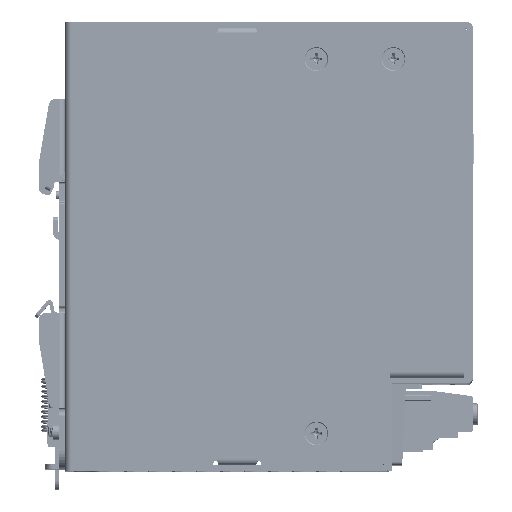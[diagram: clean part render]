
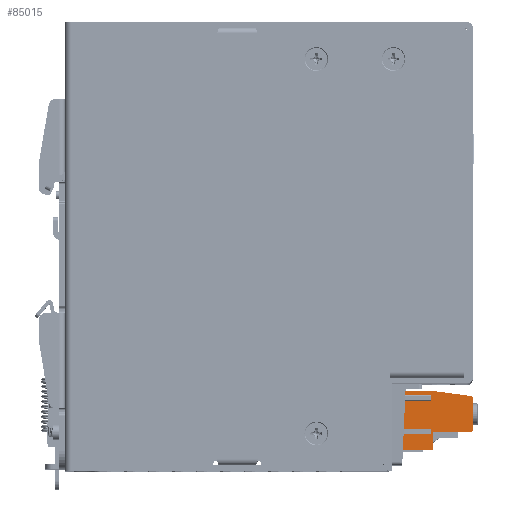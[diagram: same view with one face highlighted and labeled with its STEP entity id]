
A CAD part, top view. The second image highlights one B-rep face of the part: STEP entity #85015.
In plain terms, the highlighted planar face has unit normal (0, 0, 1) as drawn and (0, 0, -1) by its records, which use the part's own axes.
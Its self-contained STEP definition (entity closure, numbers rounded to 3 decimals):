
#81359=DIRECTION('',(0.,-1.,0.));
#81360=VECTOR('',#81359,1.15);
#81361=CARTESIAN_POINT('',(-8.,13.65,-3.175));
#81362=LINE('',#81361,#81360);
#81380=DIRECTION('',(0.,-1.,0.));
#81381=VECTOR('',#81380,12.15);
#81382=CARTESIAN_POINT('',(-8.,10.5,-3.175));
#81383=LINE('',#81382,#81381);
#81415=DIRECTION('',(-1.,0.,0.));
#81416=VECTOR('',#81415,0.65);
#81417=CARTESIAN_POINT('',(-7.35,10.5,-3.175));
#81418=LINE('',#81417,#81416);
#81429=DIRECTION('',(0.,-1.,0.));
#81430=VECTOR('',#81429,14.5);
#81431=CARTESIAN_POINT('',(-6.575,13.65,-3.175));
#81432=LINE('',#81431,#81430);
#81436=DIRECTION('',(0.,1.,0.));
#81437=VECTOR('',#81436,2.);
#81438=CARTESIAN_POINT('',(-7.35,10.5,-3.175));
#81439=LINE('',#81438,#81437);
#81443=DIRECTION('',(-0.132,0.991,0.));
#81444=VECTOR('',#81443,9.967);
#81445=CARTESIAN_POINT('',(-6.683,-11.529,-3.175));
#81446=LINE('',#81445,#81444);
#81450=CARTESIAN_POINT('',(-6.088,-11.45,-3.175));
#81451=DIRECTION('',(0.,0.,-1.));
#81452=DIRECTION('',(0.,-1.,0.));
#81453=AXIS2_PLACEMENT_3D('',#81450,#81451,#81452);
#81458=DIRECTION('',(-1.,0.,0.));
#81459=VECTOR('',#81458,8.488);
#81460=CARTESIAN_POINT('',(2.4,-12.05,-3.175));
#81461=LINE('',#81460,#81459);
#81465=CARTESIAN_POINT('',(2.4,-11.45,-3.175));
#81466=DIRECTION('',(0.,0.,-1.));
#81467=DIRECTION('',(1.,0.,0.));
#81468=AXIS2_PLACEMENT_3D('',#81465,#81466,#81467);
#81473=CARTESIAN_POINT('',(7.35,-0.9,-3.175));
#81474=DIRECTION('',(0.,0.,-1.));
#81475=DIRECTION('',(1.,0.,0.));
#81476=AXIS2_PLACEMENT_3D('',#81473,#81474,#81475);
#81481=DIRECTION('',(1.,0.,0.));
#81482=VECTOR('',#81481,0.45);
#81483=CARTESIAN_POINT('',(7.4,9.55,-3.175));
#81484=LINE('',#81483,#81482);
#81488=DIRECTION('',(0.,-1.,0.));
#81489=VECTOR('',#81488,4.1);
#81490=CARTESIAN_POINT('',(7.4,13.65,-3.175));
#81491=LINE('',#81490,#81489);
#81495=DIRECTION('',(0.,-1.,0.));
#81496=VECTOR('',#81495,14.5);
#81497=CARTESIAN_POINT('',(2.525,13.65,-3.175));
#81498=LINE('',#81497,#81496);
#81524=DIRECTION('',(-1.,0.,0.));
#81525=VECTOR('',#81524,0.75);
#81526=CARTESIAN_POINT('',(-5.825,-0.85,-3.175));
#81527=LINE('',#81526,#81525);
#81560=DIRECTION('',(-1.,0.,0.));
#81561=VECTOR('',#81560,8.35);
#81562=CARTESIAN_POINT('',(2.525,13.65,-3.175));
#81563=LINE('',#81562,#81561);
#81597=DIRECTION('',(-1.,0.,0.));
#81598=VECTOR('',#81597,4.125);
#81599=CARTESIAN_POINT('',(7.4,13.65,-3.175));
#81600=LINE('',#81599,#81598);
#81625=DIRECTION('',(-1.,0.,0.));
#81626=VECTOR('',#81625,1.425);
#81627=CARTESIAN_POINT('',(-6.575,13.65,-3.175));
#81628=LINE('',#81627,#81626);
#81655=DIRECTION('',(0.,-1.,0.));
#81656=VECTOR('',#81655,14.5);
#81657=CARTESIAN_POINT('',(-5.825,13.65,-3.175));
#81658=LINE('',#81657,#81656);
#81683=DIRECTION('',(-1.,0.,0.));
#81684=VECTOR('',#81683,0.75);
#81685=CARTESIAN_POINT('',(3.275,-0.85,-3.175));
#81686=LINE('',#81685,#81684);
#81720=DIRECTION('',(0.,-1.,0.));
#81721=VECTOR('',#81720,14.5);
#81722=CARTESIAN_POINT('',(3.275,13.65,-3.175));
#81723=LINE('',#81722,#81721);
#81881=DIRECTION('',(0.,1.,0.));
#81882=VECTOR('',#81881,10.45);
#81883=CARTESIAN_POINT('',(7.85,-0.9,-3.175));
#81884=LINE('',#81883,#81882);
#81961=DIRECTION('',(1.,0.,0.));
#81962=VECTOR('',#81961,4.35);
#81963=CARTESIAN_POINT('',(3.,-1.4,-3.175));
#81964=LINE('',#81963,#81962);
#81989=DIRECTION('',(0.,1.,0.));
#81990=VECTOR('',#81989,10.05);
#81991=CARTESIAN_POINT('',(3.,-11.45,-3.175));
#81992=LINE('',#81991,#81990);
#83704=DIRECTION('',(1.,0.,0.));
#83705=VECTOR('',#83704,0.65);
#83706=CARTESIAN_POINT('',(-8.,12.5,-3.175));
#83707=LINE('',#83706,#83705);
#83833=CARTESIAN_POINT('',(-5.825,13.65,-3.175));
#83835=VERTEX_POINT('',#83833);
#83843=CARTESIAN_POINT('',(-6.575,13.65,-3.175));
#83844=VERTEX_POINT('',#83843);
#83845=CARTESIAN_POINT('',(-8.,13.65,-3.175));
#83846=VERTEX_POINT('',#83845);
#83857=CARTESIAN_POINT('',(7.4,13.65,-3.175));
#83858=VERTEX_POINT('',#83857);
#83859=CARTESIAN_POINT('',(3.275,13.65,-3.175));
#83860=VERTEX_POINT('',#83859);
#83869=CARTESIAN_POINT('',(2.525,13.65,-3.175));
#83870=VERTEX_POINT('',#83869);
#83872=CARTESIAN_POINT('',(-8.,10.5,-3.175));
#83874=VERTEX_POINT('',#83872);
#83875=CARTESIAN_POINT('',(-8.,-1.65,-3.175));
#83876=VERTEX_POINT('',#83875);
#83895=CARTESIAN_POINT('',(-8.,12.5,-3.175));
#83896=VERTEX_POINT('',#83895);
#84172=CARTESIAN_POINT('',(7.35,-1.4,-3.175));
#84173=VERTEX_POINT('',#84172);
#84174=CARTESIAN_POINT('',(7.85,-0.9,-3.175));
#84175=VERTEX_POINT('',#84174);
#84176=CARTESIAN_POINT('',(7.85,9.55,-3.175));
#84177=VERTEX_POINT('',#84176);
#84204=CARTESIAN_POINT('',(7.4,9.55,-3.175));
#84205=VERTEX_POINT('',#84204);
#84222=CARTESIAN_POINT('',(-7.35,10.5,-3.175));
#84224=VERTEX_POINT('',#84222);
#84228=CARTESIAN_POINT('',(-7.35,12.5,-3.175));
#84229=VERTEX_POINT('',#84228);
#84260=CARTESIAN_POINT('',(-6.683,-11.529,-3.175));
#84261=VERTEX_POINT('',#84260);
#84262=CARTESIAN_POINT('',(-6.088,-12.05,-3.175));
#84263=VERTEX_POINT('',#84262);
#84264=CARTESIAN_POINT('',(-5.825,-0.85,-3.175));
#84265=CARTESIAN_POINT('',(-6.575,-0.85,-3.175));
#84266=VERTEX_POINT('',#84264);
#84267=VERTEX_POINT('',#84265);
#84268=CARTESIAN_POINT('',(2.525,-0.85,-3.175));
#84269=VERTEX_POINT('',#84268);
#84270=CARTESIAN_POINT('',(3.275,-0.85,-3.175));
#84271=VERTEX_POINT('',#84270);
#84272=CARTESIAN_POINT('',(3.,-1.4,-3.175));
#84273=VERTEX_POINT('',#84272);
#84274=CARTESIAN_POINT('',(3.,-11.45,-3.175));
#84275=VERTEX_POINT('',#84274);
#84276=CARTESIAN_POINT('',(2.4,-12.05,-3.175));
#84277=VERTEX_POINT('',#84276);
#84963=CARTESIAN_POINT('',(-8.,13.65,-3.175));
#84964=DIRECTION('',(0.,0.,-1.));
#84965=DIRECTION('',(0.,-1.,0.));
#84966=AXIS2_PLACEMENT_3D('',#84963,#84964,#84965);
#84967=PLANE('',#84966);
#84969=ORIENTED_EDGE('',*,*,#84968,.T.);
#84971=ORIENTED_EDGE('',*,*,#84970,.F.);
#84973=ORIENTED_EDGE('',*,*,#84972,.T.);
#84974=ORIENTED_EDGE('',*,*,#84913,.T.);
#84976=ORIENTED_EDGE('',*,*,#84975,.T.);
#84978=ORIENTED_EDGE('',*,*,#84977,.F.);
#84979=ORIENTED_EDGE('',*,*,#84953,.T.);
#84980=ORIENTED_EDGE('',*,*,#84933,.T.);
#84982=ORIENTED_EDGE('',*,*,#84981,.F.);
#84984=ORIENTED_EDGE('',*,*,#84983,.F.);
#84986=ORIENTED_EDGE('',*,*,#84985,.F.);
#84988=ORIENTED_EDGE('',*,*,#84987,.F.);
#84990=ORIENTED_EDGE('',*,*,#84989,.T.);
#84992=ORIENTED_EDGE('',*,*,#84991,.T.);
#84994=ORIENTED_EDGE('',*,*,#84993,.F.);
#84996=ORIENTED_EDGE('',*,*,#84995,.T.);
#84998=ORIENTED_EDGE('',*,*,#84997,.F.);
#85000=ORIENTED_EDGE('',*,*,#84999,.F.);
#85002=ORIENTED_EDGE('',*,*,#85001,.T.);
#85004=ORIENTED_EDGE('',*,*,#85003,.T.);
#85006=ORIENTED_EDGE('',*,*,#85005,.T.);
#85008=ORIENTED_EDGE('',*,*,#85007,.F.);
#85010=ORIENTED_EDGE('',*,*,#85009,.T.);
#85012=ORIENTED_EDGE('',*,*,#85011,.T.);
#85013=EDGE_LOOP('',(#84969,#84971,#84973,#84974,#84976,#84978,#84979,#84980,
#84982,#84984,#84986,#84988,#84990,#84992,#84994,#84996,#84998,#85000,#85002,
#85004,#85006,#85008,#85010,#85012));
#85014=FACE_OUTER_BOUND('',#85013,.F.);
#81454=CIRCLE('',#81453,0.6);
#81469=CIRCLE('',#81468,0.6);
#81477=CIRCLE('',#81476,0.5);
#84913=EDGE_CURVE('',#83846,#83896,#81362,.T.);
#84933=EDGE_CURVE('',#83874,#83876,#81383,.T.);
#84953=EDGE_CURVE('',#84224,#83874,#81418,.T.);
#84968=EDGE_CURVE('',#84266,#84267,#81527,.T.);
#84970=EDGE_CURVE('',#83844,#84267,#81432,.T.);
#84972=EDGE_CURVE('',#83844,#83846,#81628,.T.);
#84975=EDGE_CURVE('',#83896,#84229,#83707,.T.);
#84977=EDGE_CURVE('',#84224,#84229,#81439,.T.);
#84981=EDGE_CURVE('',#84261,#83876,#81446,.T.);
#84983=EDGE_CURVE('',#84263,#84261,#81454,.T.);
#84985=EDGE_CURVE('',#84277,#84263,#81461,.T.);
#84987=EDGE_CURVE('',#84275,#84277,#81469,.T.);
#84989=EDGE_CURVE('',#84275,#84273,#81992,.T.);
#84991=EDGE_CURVE('',#84273,#84173,#81964,.T.);
#84993=EDGE_CURVE('',#84175,#84173,#81477,.T.);
#84995=EDGE_CURVE('',#84175,#84177,#81884,.T.);
#84997=EDGE_CURVE('',#84205,#84177,#81484,.T.);
#84999=EDGE_CURVE('',#83858,#84205,#81491,.T.);
#85001=EDGE_CURVE('',#83858,#83860,#81600,.T.);
#85003=EDGE_CURVE('',#83860,#84271,#81723,.T.);
#85005=EDGE_CURVE('',#84271,#84269,#81686,.T.);
#85007=EDGE_CURVE('',#83870,#84269,#81498,.T.);
#85009=EDGE_CURVE('',#83870,#83835,#81563,.T.);
#85011=EDGE_CURVE('',#83835,#84266,#81658,.T.);
#85015=ADVANCED_FACE('',(#85014),#84967,.T.);
